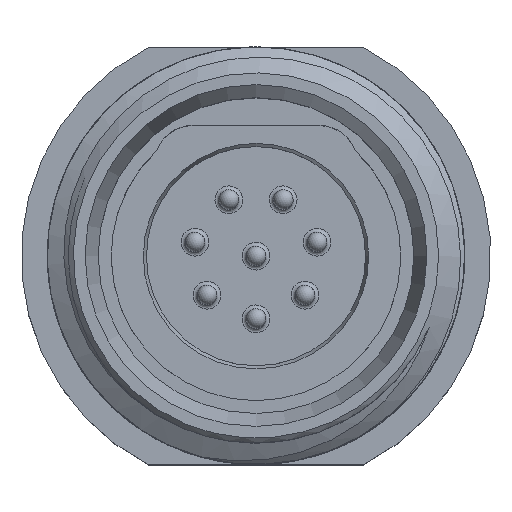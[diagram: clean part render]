
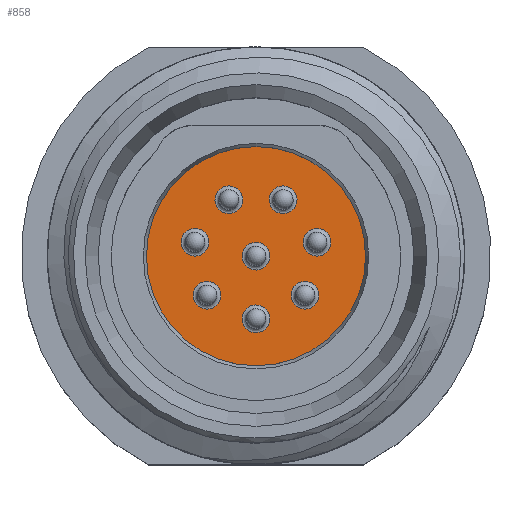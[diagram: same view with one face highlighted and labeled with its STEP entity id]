
A CAD part, top view. The second image highlights one B-rep face of the part: STEP entity #858.
In plain terms, the highlighted planar face has unit normal (0, 0, 1).
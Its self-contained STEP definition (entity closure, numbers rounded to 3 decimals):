
#58 = CARTESIAN_POINT ( 'NONE',  ( 1.386, -1.7, 0. ) ) ;
#216 = VERTEX_POINT ( 'NONE', #5777 ) ;
#348 = CARTESIAN_POINT ( 'NONE',  ( -2.34, 0.534, 0. ) ) ;
#358 = CARTESIAN_POINT ( 'NONE',  ( 1.041, 2.162, 0. ) ) ;
#402 = AXIS2_PLACEMENT_3D ( 'NONE', #348, #892, #1257 ) ;
#543 = VERTEX_POINT ( 'NONE', #2782 ) ;
#603 = VERTEX_POINT ( 'NONE', #5804 ) ;
#667 = DIRECTION ( 'NONE',  ( 1., 0., 0. ) ) ;
#697 = VERTEX_POINT ( 'NONE', #4855 ) ;
#703 = CIRCLE ( 'NONE', #5652, 0.531 ) ;
#722 = DIRECTION ( 'NONE',  ( 0., 0., -1. ) ) ;
#761 = ORIENTED_EDGE ( 'NONE', *, *, #3436, .T. ) ;
#858 = ADVANCED_FACE ( 'NONE', ( #2169, #4881, #4469, #4854, #5830, #2093, #1616, #3509, #5423 ), #2574, .F. ) ;
#892 = DIRECTION ( 'NONE',  ( 0., 0., -1. ) ) ;
#906 = AXIS2_PLACEMENT_3D ( 'NONE', #1666, #722, #667 ) ;
#922 = AXIS2_PLACEMENT_3D ( 'NONE', #358, #4079, #3600 ) ;
#934 = CIRCLE ( 'NONE', #3849, 4.2 ) ;
#1022 = EDGE_LOOP ( 'NONE', ( #761 ) ) ;
#1029 = AXIS2_PLACEMENT_3D ( 'NONE', #5376, #4965, #5947 ) ;
#1094 = VERTEX_POINT ( 'NONE', #2005 ) ;
#1250 = EDGE_LOOP ( 'NONE', ( #4815 ) ) ;
#1257 = DIRECTION ( 'NONE',  ( -0.924, -0.383, 0. ) ) ;
#1323 = AXIS2_PLACEMENT_3D ( 'NONE', #2971, #4818, #1613 ) ;
#1352 = EDGE_LOOP ( 'NONE', ( #3614 ) ) ;
#1382 = DIRECTION ( 'NONE',  ( 0., 0., -1. ) ) ;
#1415 = DIRECTION ( 'NONE',  ( -0.924, -0.383, 0. ) ) ;
#1430 = AXIS2_PLACEMENT_3D ( 'NONE', #3122, #4057, #1762 ) ;
#1456 = CARTESIAN_POINT ( 'NONE',  ( 1.849, 0.331, 0. ) ) ;
#1484 = CARTESIAN_POINT ( 'NONE',  ( 0., 0., 0. ) ) ;
#1613 = DIRECTION ( 'NONE',  ( -0.924, -0.383, 0. ) ) ;
#1616 = FACE_BOUND ( 'NONE', #5268, .T. ) ;
#1666 = CARTESIAN_POINT ( 'NONE',  ( 0., -4.15, 0. ) ) ;
#1741 = EDGE_CURVE ( 'NONE', #543, #543, #2724, .T. ) ;
#1755 = EDGE_CURVE ( 'NONE', #2328, #2328, #703, .T. ) ;
#1762 = DIRECTION ( 'NONE',  ( -0.924, -0.383, 0. ) ) ;
#1912 = CIRCLE ( 'NONE', #1430, 0.531 ) ;
#2005 = CARTESIAN_POINT ( 'NONE',  ( 0.551, 1.959, 0. ) ) ;
#2093 = FACE_BOUND ( 'NONE', #4104, .T. ) ;
#2145 = DIRECTION ( 'NONE',  ( -0.924, -0.383, 0. ) ) ;
#2169 = FACE_OUTER_BOUND ( 'NONE', #1250, .T. ) ;
#2248 = AXIS2_PLACEMENT_3D ( 'NONE', #5544, #1382, #1415 ) ;
#2328 = VERTEX_POINT ( 'NONE', #58 ) ;
#2385 = DIRECTION ( 'NONE',  ( 0., 1., 0. ) ) ;
#2390 = VERTEX_POINT ( 'NONE', #1456 ) ;
#2431 = EDGE_CURVE ( 'NONE', #2390, #2390, #5553, .T. ) ;
#2574 = PLANE ( 'NONE',  #906 ) ;
#2653 = DIRECTION ( 'NONE',  ( 0., 0., -1. ) ) ;
#2687 = EDGE_LOOP ( 'NONE', ( #3344 ) ) ;
#2714 = ORIENTED_EDGE ( 'NONE', *, *, #5815, .T. ) ;
#2724 = CIRCLE ( 'NONE', #402, 0.531 ) ;
#2743 = CARTESIAN_POINT ( 'NONE',  ( 1.876, -1.496, 0. ) ) ;
#2782 = CARTESIAN_POINT ( 'NONE',  ( -2.83, 0.331, 0. ) ) ;
#2908 = EDGE_LOOP ( 'NONE', ( #4959 ) ) ;
#2911 = VERTEX_POINT ( 'NONE', #3459 ) ;
#2971 = CARTESIAN_POINT ( 'NONE',  ( 0., -2.4, 0. ) ) ;
#3033 = ORIENTED_EDGE ( 'NONE', *, *, #4725, .T. ) ;
#3122 = CARTESIAN_POINT ( 'NONE',  ( 0., 0., 0. ) ) ;
#3162 = CIRCLE ( 'NONE', #1323, 0.531 ) ;
#3344 = ORIENTED_EDGE ( 'NONE', *, *, #1755, .T. ) ;
#3436 = EDGE_CURVE ( 'NONE', #4142, #4142, #3162, .T. ) ;
#3453 = CIRCLE ( 'NONE', #922, 0.531 ) ;
#3459 = CARTESIAN_POINT ( 'NONE',  ( -2.367, -1.7, 0. ) ) ;
#3509 = FACE_BOUND ( 'NONE', #1022, .T. ) ;
#3557 = ORIENTED_EDGE ( 'NONE', *, *, #2431, .T. ) ;
#3600 = DIRECTION ( 'NONE',  ( -0.924, -0.383, 0. ) ) ;
#3614 = ORIENTED_EDGE ( 'NONE', *, *, #5694, .T. ) ;
#3837 = EDGE_CURVE ( 'NONE', #216, #216, #934, .T. ) ;
#3849 = AXIS2_PLACEMENT_3D ( 'NONE', #1484, #5615, #2385 ) ;
#3966 = DIRECTION ( 'NONE',  ( 0., 0., -1. ) ) ;
#4057 = DIRECTION ( 'NONE',  ( 0., 0., -1. ) ) ;
#4079 = DIRECTION ( 'NONE',  ( 0., 0., -1. ) ) ;
#4104 = EDGE_LOOP ( 'NONE', ( #3033 ) ) ;
#4142 = VERTEX_POINT ( 'NONE', #6010 ) ;
#4431 = DIRECTION ( 'NONE',  ( -0.924, -0.383, 0. ) ) ;
#4469 = FACE_BOUND ( 'NONE', #5170, .T. ) ;
#4509 = CARTESIAN_POINT ( 'NONE',  ( -1.876, -1.496, 0. ) ) ;
#4725 = EDGE_CURVE ( 'NONE', #603, #603, #1912, .T. ) ;
#4810 = CIRCLE ( 'NONE', #1029, 0.531 ) ;
#4815 = ORIENTED_EDGE ( 'NONE', *, *, #3837, .F. ) ;
#4818 = DIRECTION ( 'NONE',  ( 0., 0., -1. ) ) ;
#4854 = FACE_BOUND ( 'NONE', #2687, .T. ) ;
#4855 = CARTESIAN_POINT ( 'NONE',  ( -1.532, 1.959, 0. ) ) ;
#4881 = FACE_BOUND ( 'NONE', #1352, .T. ) ;
#4959 = ORIENTED_EDGE ( 'NONE', *, *, #1741, .T. ) ;
#4965 = DIRECTION ( 'NONE',  ( 0., 0., -1. ) ) ;
#5170 = EDGE_LOOP ( 'NONE', ( #3557 ) ) ;
#5268 = EDGE_LOOP ( 'NONE', ( #5873 ) ) ;
#5376 = CARTESIAN_POINT ( 'NONE',  ( -1.041, 2.162, 0. ) ) ;
#5423 = FACE_BOUND ( 'NONE', #2908, .T. ) ;
#5544 = CARTESIAN_POINT ( 'NONE',  ( 2.34, 0.534, 0. ) ) ;
#5553 = CIRCLE ( 'NONE', #2248, 0.531 ) ;
#5586 = CIRCLE ( 'NONE', #5968, 0.531 ) ;
#5615 = DIRECTION ( 'NONE',  ( 0., 0., -1. ) ) ;
#5652 = AXIS2_PLACEMENT_3D ( 'NONE', #2743, #2653, #2145 ) ;
#5694 = EDGE_CURVE ( 'NONE', #1094, #1094, #3453, .T. ) ;
#5777 = CARTESIAN_POINT ( 'NONE',  ( 0., 4.2, 0. ) ) ;
#5804 = CARTESIAN_POINT ( 'NONE',  ( -0.49, -0.203, 0. ) ) ;
#5815 = EDGE_CURVE ( 'NONE', #2911, #2911, #5586, .T. ) ;
#5830 = FACE_BOUND ( 'NONE', #6018, .T. ) ;
#5849 = EDGE_CURVE ( 'NONE', #697, #697, #4810, .T. ) ;
#5873 = ORIENTED_EDGE ( 'NONE', *, *, #5849, .T. ) ;
#5947 = DIRECTION ( 'NONE',  ( -0.924, -0.383, 0. ) ) ;
#5968 = AXIS2_PLACEMENT_3D ( 'NONE', #4509, #3966, #4431 ) ;
#6010 = CARTESIAN_POINT ( 'NONE',  ( -0.49, -2.603, 0. ) ) ;
#6018 = EDGE_LOOP ( 'NONE', ( #2714 ) ) ;
